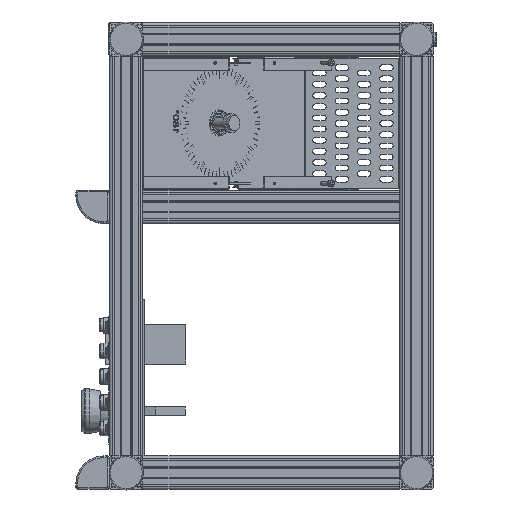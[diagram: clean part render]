
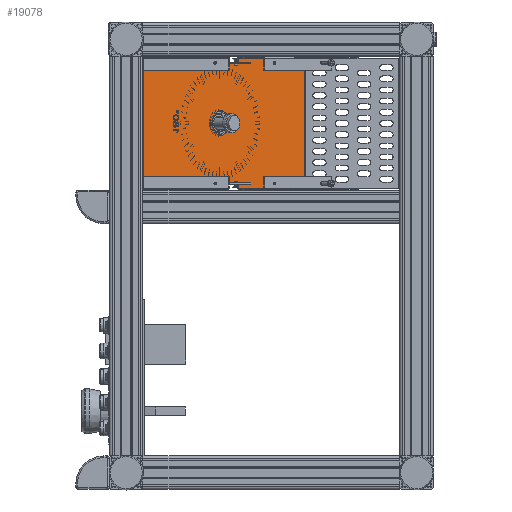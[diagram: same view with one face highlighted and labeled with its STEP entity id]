
A CAD part, front view. The second image highlights one B-rep face of the part: STEP entity #19078.
In plain terms, the highlighted planar face has unit normal (0.707, -0.707, 0) as drawn and (0, 0, 1) by its records, which use the part's own axes.
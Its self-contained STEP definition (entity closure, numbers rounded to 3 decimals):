
#3807=CIRCLE('',#108998,11.);
#4274=CIRCLE('',#109474,11.);
#19078=ADVANCED_FACE('',(#24471,#24472),#22647,.T.);
#22647=PLANE('',#109475);
#24471=FACE_BOUND('',#28728,.T.);
#24472=FACE_BOUND('',#28729,.T.);
#28728=EDGE_LOOP('',(#52972,#52973));
#28729=EDGE_LOOP('',(#52974,#52975,#52976,#52977,#52978,#52979,#52980,#52981,
#52982,#52983,#52984,#52985,#52986,#52987,#52988,#52989,#52990,#52991,#52992,
#52993,#52994,#52995,#52996,#52997,#52998,#52999,#53000,#53001));
#52972=ORIENTED_EDGE('',*,*,#81453,.F.);
#52973=ORIENTED_EDGE('',*,*,#80497,.F.);
#52974=ORIENTED_EDGE('',*,*,#81454,.F.);
#52975=ORIENTED_EDGE('',*,*,#81455,.F.);
#52976=ORIENTED_EDGE('',*,*,#81456,.F.);
#52977=ORIENTED_EDGE('',*,*,#81457,.F.);
#52978=ORIENTED_EDGE('',*,*,#81458,.F.);
#52979=ORIENTED_EDGE('',*,*,#81459,.F.);
#52980=ORIENTED_EDGE('',*,*,#81460,.F.);
#52981=ORIENTED_EDGE('',*,*,#81461,.F.);
#52982=ORIENTED_EDGE('',*,*,#81462,.F.);
#52983=ORIENTED_EDGE('',*,*,#81463,.F.);
#52984=ORIENTED_EDGE('',*,*,#81464,.F.);
#52985=ORIENTED_EDGE('',*,*,#81465,.F.);
#52986=ORIENTED_EDGE('',*,*,#81466,.F.);
#52987=ORIENTED_EDGE('',*,*,#81467,.F.);
#52988=ORIENTED_EDGE('',*,*,#81468,.F.);
#52989=ORIENTED_EDGE('',*,*,#81469,.F.);
#52990=ORIENTED_EDGE('',*,*,#81470,.F.);
#52991=ORIENTED_EDGE('',*,*,#81471,.F.);
#52992=ORIENTED_EDGE('',*,*,#81472,.F.);
#52993=ORIENTED_EDGE('',*,*,#81473,.F.);
#52994=ORIENTED_EDGE('',*,*,#81474,.F.);
#52995=ORIENTED_EDGE('',*,*,#81475,.F.);
#52996=ORIENTED_EDGE('',*,*,#81476,.F.);
#52997=ORIENTED_EDGE('',*,*,#81477,.F.);
#52998=ORIENTED_EDGE('',*,*,#81478,.F.);
#52999=ORIENTED_EDGE('',*,*,#81479,.F.);
#53000=ORIENTED_EDGE('',*,*,#81480,.F.);
#53001=ORIENTED_EDGE('',*,*,#81481,.F.);
#67974=VERTEX_POINT('',#171826);
#67975=VERTEX_POINT('',#171828);
#68694=VERTEX_POINT('',#173513);
#68695=VERTEX_POINT('',#173514);
#68696=VERTEX_POINT('',#173516);
#68697=VERTEX_POINT('',#173518);
#68698=VERTEX_POINT('',#173520);
#68699=VERTEX_POINT('',#173522);
#68700=VERTEX_POINT('',#173524);
#68701=VERTEX_POINT('',#173526);
#68702=VERTEX_POINT('',#173528);
#68703=VERTEX_POINT('',#173530);
#68704=VERTEX_POINT('',#173532);
#68705=VERTEX_POINT('',#173534);
#68706=VERTEX_POINT('',#173536);
#68707=VERTEX_POINT('',#173538);
#68708=VERTEX_POINT('',#173540);
#68709=VERTEX_POINT('',#173542);
#68710=VERTEX_POINT('',#173544);
#68711=VERTEX_POINT('',#173546);
#68712=VERTEX_POINT('',#173548);
#68713=VERTEX_POINT('',#173550);
#68714=VERTEX_POINT('',#173552);
#68715=VERTEX_POINT('',#173554);
#68716=VERTEX_POINT('',#173556);
#68717=VERTEX_POINT('',#173558);
#68718=VERTEX_POINT('',#173560);
#68719=VERTEX_POINT('',#173562);
#68720=VERTEX_POINT('',#173564);
#68721=VERTEX_POINT('',#173566);
#80497=EDGE_CURVE('',#67974,#67975,#3807,.T.);
#81453=EDGE_CURVE('',#67975,#67974,#4274,.T.);
#81454=EDGE_CURVE('',#68694,#68695,#91456,.T.);
#81455=EDGE_CURVE('',#68696,#68694,#91457,.T.);
#81456=EDGE_CURVE('',#68697,#68696,#91458,.T.);
#81457=EDGE_CURVE('',#68698,#68697,#91459,.T.);
#81458=EDGE_CURVE('',#68699,#68698,#91460,.T.);
#81459=EDGE_CURVE('',#68700,#68699,#91461,.T.);
#81460=EDGE_CURVE('',#68701,#68700,#91462,.T.);
#81461=EDGE_CURVE('',#68702,#68701,#91463,.T.);
#81462=EDGE_CURVE('',#68703,#68702,#91464,.T.);
#81463=EDGE_CURVE('',#68704,#68703,#91465,.T.);
#81464=EDGE_CURVE('',#68705,#68704,#91466,.T.);
#81465=EDGE_CURVE('',#68706,#68705,#91467,.T.);
#81466=EDGE_CURVE('',#68707,#68706,#91468,.T.);
#81467=EDGE_CURVE('',#68708,#68707,#91469,.T.);
#81468=EDGE_CURVE('',#68709,#68708,#91470,.T.);
#81469=EDGE_CURVE('',#68710,#68709,#91471,.T.);
#81470=EDGE_CURVE('',#68711,#68710,#91472,.T.);
#81471=EDGE_CURVE('',#68712,#68711,#91473,.T.);
#81472=EDGE_CURVE('',#68713,#68712,#91474,.T.);
#81473=EDGE_CURVE('',#68714,#68713,#91475,.T.);
#81474=EDGE_CURVE('',#68715,#68714,#91476,.T.);
#81475=EDGE_CURVE('',#68716,#68715,#91477,.T.);
#81476=EDGE_CURVE('',#68717,#68716,#91478,.T.);
#81477=EDGE_CURVE('',#68718,#68717,#91479,.T.);
#81478=EDGE_CURVE('',#68719,#68718,#91480,.T.);
#81479=EDGE_CURVE('',#68720,#68719,#91481,.T.);
#81480=EDGE_CURVE('',#68721,#68720,#91482,.T.);
#81481=EDGE_CURVE('',#68695,#68721,#91483,.T.);
#91456=LINE('',#173512,#100749);
#91457=LINE('',#173515,#100750);
#91458=LINE('',#173517,#100751);
#91459=LINE('',#173519,#100752);
#91460=LINE('',#173521,#100753);
#91461=LINE('',#173523,#100754);
#91462=LINE('',#173525,#100755);
#91463=LINE('',#173527,#100756);
#91464=LINE('',#173529,#100757);
#91465=LINE('',#173531,#100758);
#91466=LINE('',#173533,#100759);
#91467=LINE('',#173535,#100760);
#91468=LINE('',#173537,#100761);
#91469=LINE('',#173539,#100762);
#91470=LINE('',#173541,#100763);
#91471=LINE('',#173543,#100764);
#91472=LINE('',#173545,#100765);
#91473=LINE('',#173547,#100766);
#91474=LINE('',#173549,#100767);
#91475=LINE('',#173551,#100768);
#91476=LINE('',#173553,#100769);
#91477=LINE('',#173555,#100770);
#91478=LINE('',#173557,#100771);
#91479=LINE('',#173559,#100772);
#91480=LINE('',#173561,#100773);
#91481=LINE('',#173563,#100774);
#91482=LINE('',#173565,#100775);
#91483=LINE('',#173567,#100776);
#100749=VECTOR('',#130149,1.);
#100750=VECTOR('',#130150,1.);
#100751=VECTOR('',#130151,1.);
#100752=VECTOR('',#130152,1.);
#100753=VECTOR('',#130153,1.);
#100754=VECTOR('',#130154,1.);
#100755=VECTOR('',#130155,1.);
#100756=VECTOR('',#130156,1.);
#100757=VECTOR('',#130157,1.);
#100758=VECTOR('',#130158,1.);
#100759=VECTOR('',#130159,1.);
#100760=VECTOR('',#130160,1.);
#100761=VECTOR('',#130161,1.);
#100762=VECTOR('',#130162,1.);
#100763=VECTOR('',#130163,1.);
#100764=VECTOR('',#130164,1.);
#100765=VECTOR('',#130165,1.);
#100766=VECTOR('',#130166,1.);
#100767=VECTOR('',#130167,1.);
#100768=VECTOR('',#130168,1.);
#100769=VECTOR('',#130169,1.);
#100770=VECTOR('',#130170,1.);
#100771=VECTOR('',#130171,1.);
#100772=VECTOR('',#130172,1.);
#100773=VECTOR('',#130173,1.);
#100774=VECTOR('',#130174,1.);
#100775=VECTOR('',#130175,1.);
#100776=VECTOR('',#130176,1.);
#108998=AXIS2_PLACEMENT_3D('',#171827,#128706,#128707);
#109474=AXIS2_PLACEMENT_3D('',#173511,#130147,#130148);
#109475=AXIS2_PLACEMENT_3D('',#173568,#130177,#130178);
#128706=DIRECTION('',(0.,0.,1.));
#128707=DIRECTION('',(1.,0.,0.));
#130147=DIRECTION('',(0.,0.,1.));
#130148=DIRECTION('',(1.,0.,0.));
#130149=DIRECTION('',(-1.,0.,0.));
#130150=DIRECTION('',(0.,-1.,0.));
#130151=DIRECTION('',(1.,0.,0.));
#130152=DIRECTION('',(0.,1.,0.));
#130153=DIRECTION('',(1.,0.,0.));
#130154=DIRECTION('',(0.,1.,0.));
#130155=DIRECTION('',(1.,0.,0.));
#130156=DIRECTION('',(0.,-1.,0.));
#130157=DIRECTION('',(1.,0.,0.));
#130158=DIRECTION('',(0.,1.,0.));
#130159=DIRECTION('',(1.,0.,0.));
#130160=DIRECTION('',(0.,-1.,0.));
#130161=DIRECTION('',(1.,0.,0.));
#130162=DIRECTION('',(0.,-1.,0.));
#130163=DIRECTION('',(1.,0.,0.));
#130164=DIRECTION('',(0.,1.,0.));
#130165=DIRECTION('',(-1.,0.,0.));
#130166=DIRECTION('',(0.,-1.,0.));
#130167=DIRECTION('',(-1.,0.,0.));
#130168=DIRECTION('',(0.,-1.,0.));
#130169=DIRECTION('',(-1.,0.,0.));
#130170=DIRECTION('',(0.,1.,0.));
#130171=DIRECTION('',(-1.,0.,0.));
#130172=DIRECTION('',(0.,-1.,0.));
#130173=DIRECTION('',(-1.,0.,0.));
#130174=DIRECTION('',(0.,1.,0.));
#130175=DIRECTION('',(-1.,0.,0.));
#130176=DIRECTION('',(0.,1.,0.));
#130177=DIRECTION('',(0.,0.,1.));
#130178=DIRECTION('',(1.,0.,0.));
#171826=CARTESIAN_POINT('',(-27.,-0.133,0.));
#171827=CARTESIAN_POINT('',(-16.,-0.133,0.));
#171828=CARTESIAN_POINT('',(-5.,-0.133,0.));
#173511=CARTESIAN_POINT('',(-16.,-0.133,0.));
#173512=CARTESIAN_POINT('',(123.,-58.2,0.));
#173513=CARTESIAN_POINT('',(122.876,-58.2,0.));
#173514=CARTESIAN_POINT('',(6.5,-58.2,0.));
#173515=CARTESIAN_POINT('',(122.876,58.2,0.));
#173516=CARTESIAN_POINT('',(122.876,58.2,0.));
#173517=CARTESIAN_POINT('',(6.5,58.2,0.));
#173518=CARTESIAN_POINT('',(6.5,58.2,0.));
#173519=CARTESIAN_POINT('',(6.5,0.,0.));
#173520=CARTESIAN_POINT('',(6.5,54.5,0.));
#173521=CARTESIAN_POINT('',(0.,54.5,0.));
#173522=CARTESIAN_POINT('',(3.5,54.5,0.));
#173523=CARTESIAN_POINT('',(3.5,52.7,0.));
#173524=CARTESIAN_POINT('',(3.5,52.7,0.));
#173525=CARTESIAN_POINT('',(3.,52.7,0.));
#173526=CARTESIAN_POINT('',(3.,52.7,0.));
#173527=CARTESIAN_POINT('',(3.,53.2,0.));
#173528=CARTESIAN_POINT('',(3.,53.2,0.));
#173529=CARTESIAN_POINT('',(-35.,53.2,0.));
#173530=CARTESIAN_POINT('',(-35.,53.2,0.));
#173531=CARTESIAN_POINT('',(-35.,52.7,0.));
#173532=CARTESIAN_POINT('',(-35.,52.7,0.));
#173533=CARTESIAN_POINT('',(-35.5,52.7,0.));
#173534=CARTESIAN_POINT('',(-35.5,52.7,0.));
#173535=CARTESIAN_POINT('',(-35.5,54.5,0.));
#173536=CARTESIAN_POINT('',(-35.5,54.5,0.));
#173537=CARTESIAN_POINT('',(0.,54.5,0.));
#173538=CARTESIAN_POINT('',(-38.5,54.5,0.));
#173539=CARTESIAN_POINT('',(-38.5,0.,0.));
#173540=CARTESIAN_POINT('',(-38.5,58.2,0.));
#173541=CARTESIAN_POINT('',(-123.,58.2,0.));
#173542=CARTESIAN_POINT('',(-122.876,58.2,0.));
#173543=CARTESIAN_POINT('',(-122.876,-58.2,0.));
#173544=CARTESIAN_POINT('',(-122.876,-58.2,0.));
#173545=CARTESIAN_POINT('',(-38.5,-58.2,0.));
#173546=CARTESIAN_POINT('',(-38.5,-58.2,0.));
#173547=CARTESIAN_POINT('',(-38.5,0.,0.));
#173548=CARTESIAN_POINT('',(-38.5,-54.5,0.));
#173549=CARTESIAN_POINT('',(0.,-54.5,0.));
#173550=CARTESIAN_POINT('',(-35.5,-54.5,0.));
#173551=CARTESIAN_POINT('',(-35.5,-52.7,0.));
#173552=CARTESIAN_POINT('',(-35.5,-52.7,0.));
#173553=CARTESIAN_POINT('',(-35.,-52.7,0.));
#173554=CARTESIAN_POINT('',(-35.,-52.7,0.));
#173555=CARTESIAN_POINT('',(-35.,-53.2,0.));
#173556=CARTESIAN_POINT('',(-35.,-53.2,0.));
#173557=CARTESIAN_POINT('',(3.,-53.2,0.));
#173558=CARTESIAN_POINT('',(3.,-53.2,0.));
#173559=CARTESIAN_POINT('',(3.,-52.7,0.));
#173560=CARTESIAN_POINT('',(3.,-52.7,0.));
#173561=CARTESIAN_POINT('',(3.5,-52.7,0.));
#173562=CARTESIAN_POINT('',(3.5,-52.7,0.));
#173563=CARTESIAN_POINT('',(3.5,-54.5,0.));
#173564=CARTESIAN_POINT('',(3.5,-54.5,0.));
#173565=CARTESIAN_POINT('',(0.,-54.5,0.));
#173566=CARTESIAN_POINT('',(6.5,-54.5,0.));
#173567=CARTESIAN_POINT('',(6.5,0.,0.));
#173568=CARTESIAN_POINT('',(0.,0.,0.));
